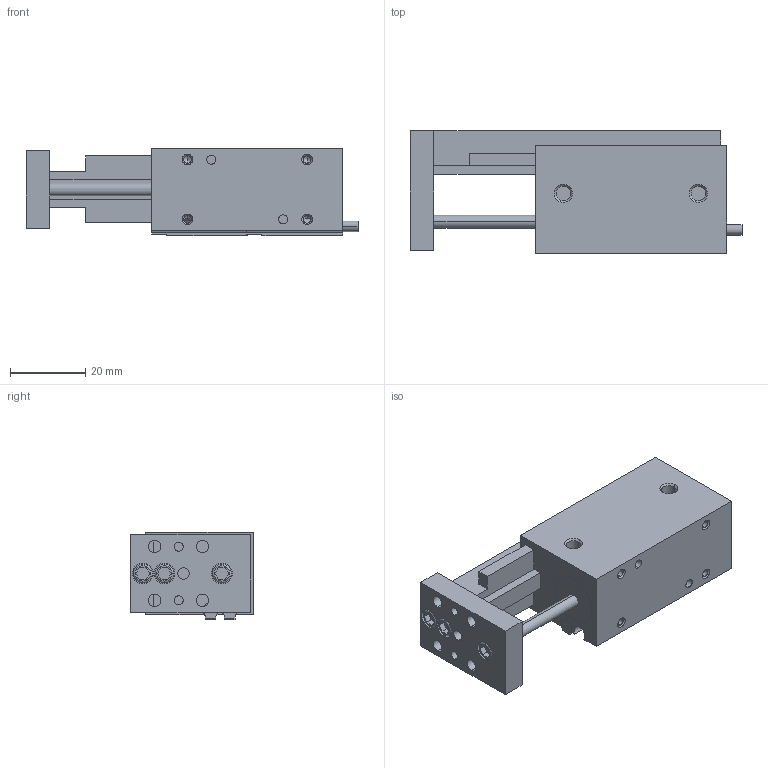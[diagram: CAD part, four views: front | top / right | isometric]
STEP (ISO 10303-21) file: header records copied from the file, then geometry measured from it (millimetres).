
FILE_DESCRIPTION (( 'STEP AP203' ), '1' );
FILE_NAME ('AGMS-1-2 EXTENDED in IN.STEP', '2014-11-06T15:03:19', ( 'setup' ), ( '' ), 'SwSTEP 2.0', 'SolidWorks 2013', '' );
FILE_SCHEMA (( 'CONFIG_CONTROL_DESIGN' ));
Length unit declared in the file: inch
Products named in the file (7): AGMS-1-2 CUSHION; AGMS-1-2 RAIL; AGMS-1-2 TOOL PLATE; AGMS-1-2 PROD; AGMS-1-2 SENSOR; AGMS-1-2 EXTENDED in IN; AGMS-1-2 BODY
Assembly tree (7 placements, depth 2):
  AGMS-1-2 EXTENDED in IN
    AGMS-1-2 BODY
    AGMS-1-2 CUSHION
    AGMS-1-2 RAIL
    AGMS-1-2 TOOL PLATE
    AGMS-1-2 PROD
    AGMS-1-2 SENSOR  x2
Bounding box: 88.15 x 32.51 x 23.2 mm (x, y, z)
Volume: 39272.5 mm3; surface area: 18497 mm2
Topology: 7 solids, 7 shells, 293 faces, 679 edges, 428 vertices
Faces by surface type: plane 127, cylinder 112, cone 46, torus 8
Entity records: 8436 total; most frequent: CARTESIAN_POINT 1399, DIRECTION 1397, ORIENTED_EDGE 1212, EDGE_CURVE 606, AXIS2_PLACEMENT_3D 526, VERTEX_POINT 388, LINE 345, VECTOR 345
